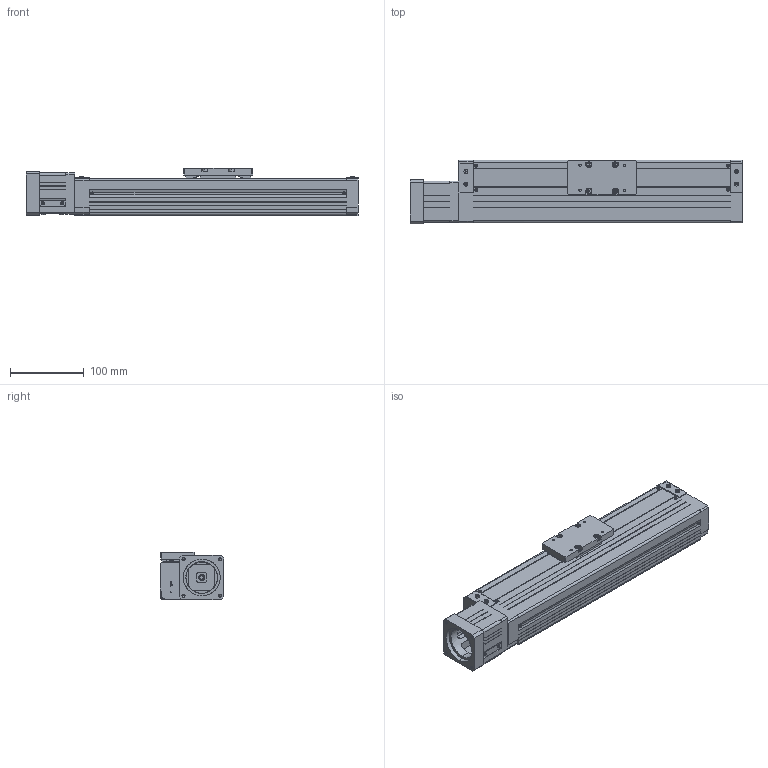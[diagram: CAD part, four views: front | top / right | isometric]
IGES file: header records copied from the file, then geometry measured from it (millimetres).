
Global section: file name: No Iges File Name specified; native system: AutoDesk Inventor R10; preprocessor: AutoDesk Inventor Iges Exporter R10; author: No Author specified; organization: No Organization specified; date: 20110701.174657; units: millimetre
Bounding box: 451 x 86.45 x 65 mm (x, y, z)
Surface area: 289219.6 mm2 (no closed solid volume)
Topology: 0 solids, 0 shells, 938 faces, 5856 edges, 5832 vertices
Faces by surface type: bspline 938
